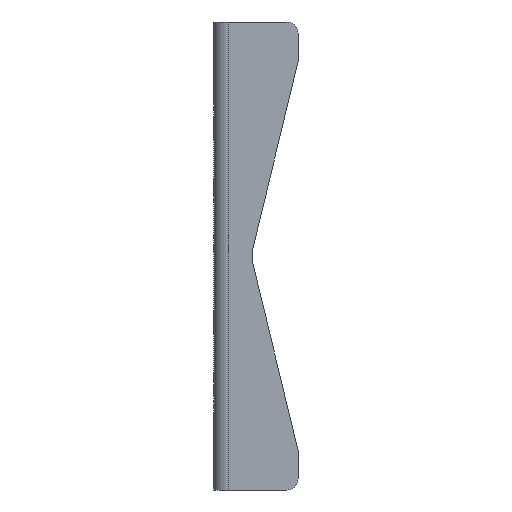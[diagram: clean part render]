
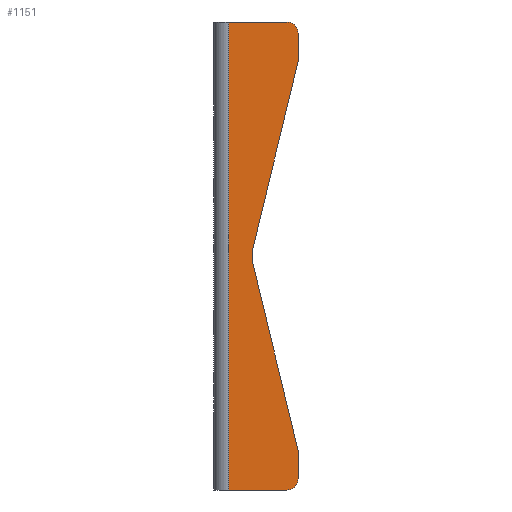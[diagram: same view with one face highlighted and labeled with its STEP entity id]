
A CAD part, left-side view. The second image highlights one B-rep face of the part: STEP entity #1151.
In plain terms, the highlighted planar face has unit normal (-1, 0, 0).
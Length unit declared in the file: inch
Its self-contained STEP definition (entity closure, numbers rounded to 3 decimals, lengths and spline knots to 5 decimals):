
#32=PLANE('',#1231);
#79=FACE_OUTER_BOUND('',#137,.T.);
#137=EDGE_LOOP('',(#809,#810,#811,#812,#813,#814,#815,#816,#817,#818));
#211=LINE('',#1631,#355);
#214=LINE('',#1637,#358);
#215=LINE('',#1639,#359);
#216=LINE('',#1641,#360);
#217=LINE('',#1645,#361);
#218=LINE('',#1647,#362);
#219=LINE('',#1649,#363);
#220=LINE('',#1650,#364);
#355=VECTOR('',#1321,0.3937);
#358=VECTOR('',#1326,0.3937);
#359=VECTOR('',#1327,0.3937);
#360=VECTOR('',#1328,0.3937);
#361=VECTOR('',#1331,0.3937);
#362=VECTOR('',#1332,0.3937);
#363=VECTOR('',#1333,0.3937);
#364=VECTOR('',#1334,0.3937);
#497=CIRCLE('',#1228,0.125);
#499=CIRCLE('',#1232,0.125);
#521=VERTEX_POINT('',#1621);
#522=VERTEX_POINT('',#1622);
#525=VERTEX_POINT('',#1630);
#527=VERTEX_POINT('',#1636);
#528=VERTEX_POINT('',#1638);
#529=VERTEX_POINT('',#1640);
#530=VERTEX_POINT('',#1642);
#531=VERTEX_POINT('',#1644);
#532=VERTEX_POINT('',#1646);
#533=VERTEX_POINT('',#1648);
#633=EDGE_CURVE('',#521,#522,#497,.T.);
#637=EDGE_CURVE('',#525,#522,#211,.T.);
#640=EDGE_CURVE('',#527,#521,#214,.T.);
#641=EDGE_CURVE('',#528,#527,#215,.T.);
#642=EDGE_CURVE('',#529,#528,#216,.T.);
#643=EDGE_CURVE('',#530,#529,#499,.T.);
#644=EDGE_CURVE('',#530,#531,#217,.T.);
#645=EDGE_CURVE('',#531,#532,#218,.T.);
#646=EDGE_CURVE('',#532,#533,#219,.T.);
#647=EDGE_CURVE('',#533,#525,#220,.T.);
#809=ORIENTED_EDGE('',*,*,#633,.F.);
#810=ORIENTED_EDGE('',*,*,#640,.F.);
#811=ORIENTED_EDGE('',*,*,#641,.F.);
#812=ORIENTED_EDGE('',*,*,#642,.F.);
#813=ORIENTED_EDGE('',*,*,#643,.F.);
#814=ORIENTED_EDGE('',*,*,#644,.T.);
#815=ORIENTED_EDGE('',*,*,#645,.T.);
#816=ORIENTED_EDGE('',*,*,#646,.T.);
#817=ORIENTED_EDGE('',*,*,#647,.T.);
#818=ORIENTED_EDGE('',*,*,#637,.T.);
#1151=ADVANCED_FACE('',(#79),#32,.T.);
#1228=AXIS2_PLACEMENT_3D('',#1623,#1313,#1314);
#1231=AXIS2_PLACEMENT_3D('',#1635,#1324,#1325);
#1232=AXIS2_PLACEMENT_3D('',#1643,#1329,#1330);
#1313=DIRECTION('center_axis',(1.,0.,0.));
#1314=DIRECTION('ref_axis',(0.,-0.707,0.707));
#1321=DIRECTION('',(0.,0.,1.));
#1324=DIRECTION('center_axis',(-1.,0.,0.));
#1325=DIRECTION('ref_axis',(0.,-1.,0.));
#1326=DIRECTION('',(0.,-1.,0.));
#1327=DIRECTION('',(0.,0.,1.));
#1328=DIRECTION('',(0.,1.,0.));
#1329=DIRECTION('center_axis',(1.,0.,0.));
#1330=DIRECTION('ref_axis',(0.,-0.707,-0.707));
#1331=DIRECTION('',(0.,0.,1.));
#1332=DIRECTION('',(0.,0.236,0.972));
#1333=DIRECTION('',(0.,0.,1.));
#1334=DIRECTION('',(0.,-0.236,0.972));
#1621=CARTESIAN_POINT('',(-0.925,0.125,2.55906));
#1622=CARTESIAN_POINT('',(-0.925,0.,2.43406));
#1623=CARTESIAN_POINT('Origin',(-0.925,0.125,2.43406));
#1630=CARTESIAN_POINT('',(-0.925,0.,2.125));
#1631=CARTESIAN_POINT('',(-0.925,0.,0.));
#1635=CARTESIAN_POINT('Origin',(-0.925,0.921,0.));
#1636=CARTESIAN_POINT('',(-0.925,0.76,2.55906));
#1637=CARTESIAN_POINT('',(-0.925,0.921,2.55906));
#1638=CARTESIAN_POINT('',(-0.925,0.76,-2.55906));
#1639=CARTESIAN_POINT('',(-0.925,0.76,0.));
#1640=CARTESIAN_POINT('',(-0.925,0.125,-2.55906));
#1641=CARTESIAN_POINT('',(-0.925,0.921,-2.55906));
#1642=CARTESIAN_POINT('',(-0.925,0.,-2.43406));
#1643=CARTESIAN_POINT('Origin',(-0.925,0.125,-2.43406));
#1644=CARTESIAN_POINT('',(-0.925,0.,-2.125));
#1645=CARTESIAN_POINT('',(-0.925,0.,0.));
#1646=CARTESIAN_POINT('',(-0.925,0.5,-0.0625));
#1647=CARTESIAN_POINT('',(-0.925,0.26884,-1.01604));
#1648=CARTESIAN_POINT('',(-0.925,0.5,0.0625));
#1649=CARTESIAN_POINT('',(-0.925,0.5,-0.03125));
#1650=CARTESIAN_POINT('',(-0.925,0.51884,-0.01521));
